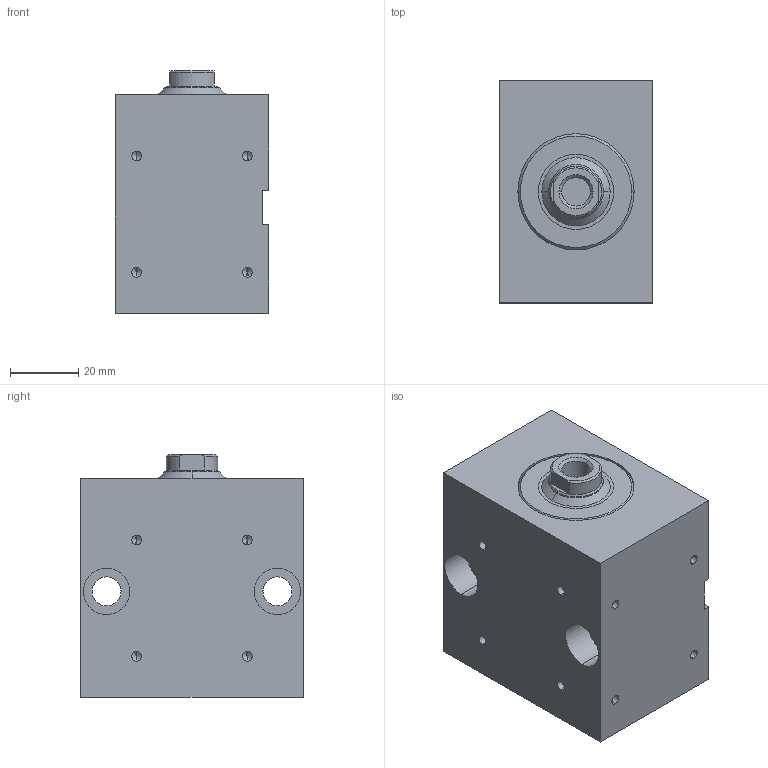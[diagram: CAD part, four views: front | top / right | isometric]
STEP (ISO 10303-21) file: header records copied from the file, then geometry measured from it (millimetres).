
FILE_DESCRIPTION (( 'STEP AP203' ), '1' );
FILE_NAME ('BZ_500.25_16.33.201.020 PP.NS33__DH_0_.STEP', '2022-05-10T12:42:45', ( '' ), ( '' ), 'SwSTEP 2.0', 'SolidWorks 2020', '' );
FILE_SCHEMA (( 'CONFIG_CONTROL_DESIGN' ));
Length unit declared in the file: millimetre
Products named in the file (7): BZ_500.25_16.33.201.020 PP.NS33__DH_0_; _O-Ring 8x1.5 - Art. 020459^BZ_500.25_16.33.201.020 PP.NS33__DH_0_(2)_BZ_500.25_16.33.201.020 PP.NS33__DH_0_; BZ_500.25_16.33.201.020 PP.NS33__DH_0_(2)^BZ_500.25_16.33.201.020 PP.NS33__DH_0_; _Kolbenstange komplett f. BZ_RZ_FZ.25_16.xx.201.20, Art.-Nr._ 037724(0_11 1 10 1.5 0 0 7 15 0 0 0)0^BZ_500.25_16.33.201.020 PP.NS33__DH_0_(2)_BZ_500.25_16.33.201.020 PP.NS33__DH_0_; _Dichtungssatz f. BZ_RZ_FZ.25_16.xx.201.20 Artikelnr._ 013322(0)^BZ_500.25_16.33.201.020 PP.NS33__DH_0_(2)_BZ_500.25_16.33.201.020 PP.NS33__DH_0_; _Verschraubung komplett mit Dichtung f. BZ_RZ_FZ.25_16.201, Art.-Nr._ 092861(201)^BZ_500.25_16.33.201.020 PP.NS33__DH_0_(2)_BZ_500.25_16.33.201.020 PP.NS33__DH_0_; _Gehaeuse f. BZ500.25_16.33.201.20.N1.m (m = Nut spiegelbildlich33)Nut rechts, Senkungen links00(133frei1330220))7^BZ_500.25_16.33.201.020 PP.NS33__DH_0_(2)_BZ_500.25_16.33.201.020 PP.NS33__DH_~
Assembly tree (7 placements, depth 3):
  BZ_500.25_16.33.201.020 PP.NS33__DH_0_
    BZ_500.25_16.33.201.020 PP.NS33__DH_0_(2)^BZ_500.25_16.33.201.020 PP.NS33__DH_0_
      _Gehaeuse f. BZ500.25_16.33.201.20.N1.m (m = Nut spiegelbildlich33)Nut rechts, Senkungen links00(133frei1330220))7^BZ_500.25_16.33.201.020 PP.NS33__DH_0_(2)_BZ_500.25_16.33.201.020 PP.NS33__DH_~
      _Verschraubung komplett mit Dichtung f. BZ_RZ_FZ.25_16.201, Art.-Nr._ 092861(201)^BZ_500.25_16.33.201.020 PP.NS33__DH_0_(2)_BZ_500.25_16.33.201.020 PP.NS33__DH_0_
      _Dichtungssatz f. BZ_RZ_FZ.25_16.xx.201.20 Artikelnr._ 013322(0)^BZ_500.25_16.33.201.020 PP.NS33__DH_0_(2)_BZ_500.25_16.33.201.020 PP.NS33__DH_0_
      _Kolbenstange komplett f. BZ_RZ_FZ.25_16.xx.201.20, Art.-Nr._ 037724(0_11 1 10 1.5 0 0 7 15 0 0 0)0^BZ_500.25_16.33.201.020 PP.NS33__DH_0_(2)_BZ_500.25_16.33.201.020 PP.NS33__DH_0_
      _O-Ring 8x1.5 - Art. 020459^BZ_500.25_16.33.201.020 PP.NS33__DH_0_(2)_BZ_500.25_16.33.201.020 PP.NS33__DH_0_  x2
Bounding box: 45 x 65 x 71 mm (x, y, z)
Volume: 172429.4 mm3; surface area: 39784 mm2
Topology: 6 solids, 6 shells, 154 faces, 353 edges, 209 vertices
Faces by surface type: cylinder 70, plane 38, cone 34, torus 12
Entity records: 4852 total; most frequent: DIRECTION 783, CARTESIAN_POINT 745, ORIENTED_EDGE 626, AXIS2_PLACEMENT_3D 323, EDGE_CURVE 313, VERTEX_POINT 199, EDGE_LOOP 182, CIRCLE 166
